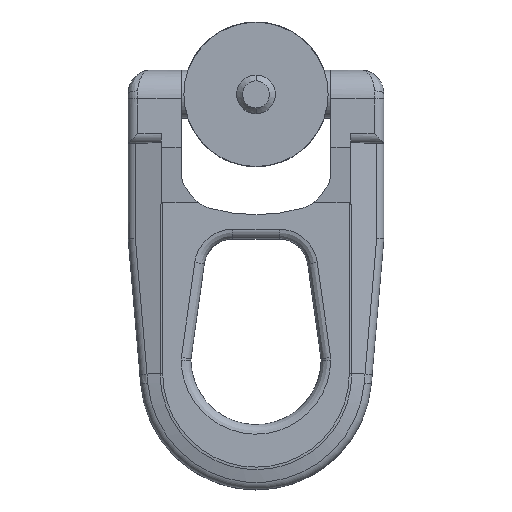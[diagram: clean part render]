
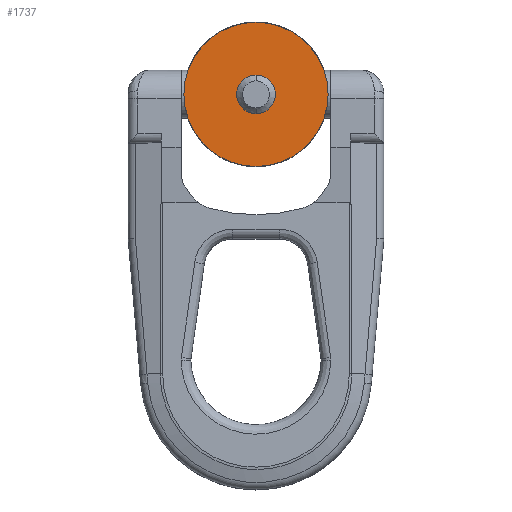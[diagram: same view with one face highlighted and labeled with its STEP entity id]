
A CAD part, front view. The second image highlights one B-rep face of the part: STEP entity #1737.
In plain terms, the highlighted planar face has unit normal (0, -1, 0).
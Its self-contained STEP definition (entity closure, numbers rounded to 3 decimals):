
#1654 = VERTEX_POINT ( 'NONE', #5423 ) ;
#1656 = EDGE_CURVE ( 'NONE', #1657, #1654, #5422, .T. ) ;
#1657 = VERTEX_POINT ( 'NONE', #5410 ) ;
#1737 = ADVANCED_FACE ( 'NONE', ( #5630, #5629 ), #5628, .F. ) ;
#1738 = EDGE_LOOP ( 'NONE', ( #1898, #1900 ) ) ;
#1844 = VERTEX_POINT ( 'NONE', #5712 ) ;
#1897 = VERTEX_POINT ( 'NONE', #6042 ) ;
#1898 = ORIENTED_EDGE ( 'NONE', *, *, #1899, .F. ) ;
#1899 = EDGE_CURVE ( 'NONE', #1844, #1897, #6041, .T. ) ;
#1900 = ORIENTED_EDGE ( 'NONE', *, *, #1931, .F. ) ;
#1901 = EDGE_LOOP ( 'NONE', ( #1902, #1903 ) ) ;
#1902 = ORIENTED_EDGE ( 'NONE', *, *, #1656, .T. ) ;
#1903 = ORIENTED_EDGE ( 'NONE', *, *, #1904, .T. ) ;
#1904 = EDGE_CURVE ( 'NONE', #1654, #1657, #6096, .T. ) ;
#1931 = EDGE_CURVE ( 'NONE', #1897, #1844, #6379, .T. ) ;
#5410 = CARTESIAN_POINT ( 'NONE',  ( 0., 0., -14.95 ) ) ;
#5411 = DIRECTION ( 'NONE',  ( 0., 0., -1. ) ) ;
#5412 = DIRECTION ( 'NONE',  ( 0., -1., 0. ) ) ;
#5413 = CARTESIAN_POINT ( 'NONE',  ( 0., 0., 0. ) ) ;
#5414 = AXIS2_PLACEMENT_3D ( 'NONE', #5413, #5412, #5411 ) ;
#5422 = CIRCLE ( 'NONE', #5414, 14.95 ) ;
#5423 = CARTESIAN_POINT ( 'NONE',  ( 0., 0., 14.95 ) ) ;
#5623 = DIRECTION ( 'NONE',  ( 0., 0., 1. ) ) ;
#5624 = DIRECTION ( 'NONE',  ( 0., 1., 0. ) ) ;
#5625 = CARTESIAN_POINT ( 'NONE',  ( 0., 0., 0. ) ) ;
#5627 = AXIS2_PLACEMENT_3D ( 'NONE', #5625, #5624, #5623 ) ;
#5628 = PLANE ( 'NONE',  #5627 ) ;
#5629 = FACE_OUTER_BOUND ( 'NONE', #1901, .T. ) ;
#5630 = FACE_BOUND ( 'NONE', #1738, .T. ) ;
#5712 = CARTESIAN_POINT ( 'NONE',  ( 0., 0., 4. ) ) ;
#6035 = CARTESIAN_POINT ( 'NONE',  ( 0., 0., 0. ) ) ;
#6037 = DIRECTION ( 'NONE',  ( 0., 0., 1. ) ) ;
#6038 = DIRECTION ( 'NONE',  ( 0., -1., 0. ) ) ;
#6039 = CARTESIAN_POINT ( 'NONE',  ( 0., 0., 0. ) ) ;
#6040 = AXIS2_PLACEMENT_3D ( 'NONE', #6039, #6038, #6037 ) ;
#6041 = CIRCLE ( 'NONE', #6040, 4. ) ;
#6042 = CARTESIAN_POINT ( 'NONE',  ( 0., 0., -4. ) ) ;
#6093 = DIRECTION ( 'NONE',  ( 0., 0., -1. ) ) ;
#6094 = DIRECTION ( 'NONE',  ( 0., -1., 0. ) ) ;
#6095 = AXIS2_PLACEMENT_3D ( 'NONE', #6035, #6094, #6093 ) ;
#6096 = CIRCLE ( 'NONE', #6095, 14.95 ) ;
#6375 = DIRECTION ( 'NONE',  ( 0., 0., 1. ) ) ;
#6376 = DIRECTION ( 'NONE',  ( 0., -1., 0. ) ) ;
#6377 = CARTESIAN_POINT ( 'NONE',  ( 0., 0., 0. ) ) ;
#6378 = AXIS2_PLACEMENT_3D ( 'NONE', #6377, #6376, #6375 ) ;
#6379 = CIRCLE ( 'NONE', #6378, 4. ) ;
